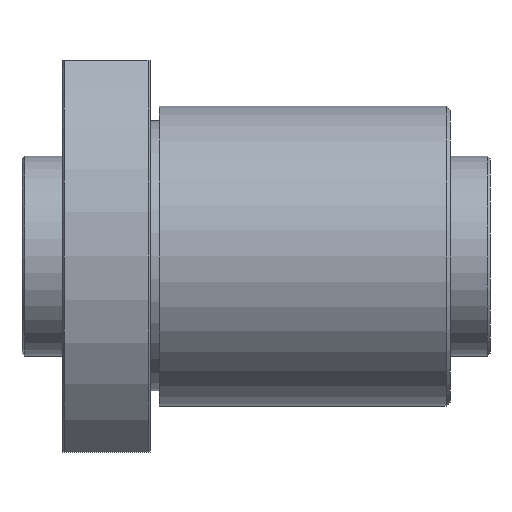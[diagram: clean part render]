
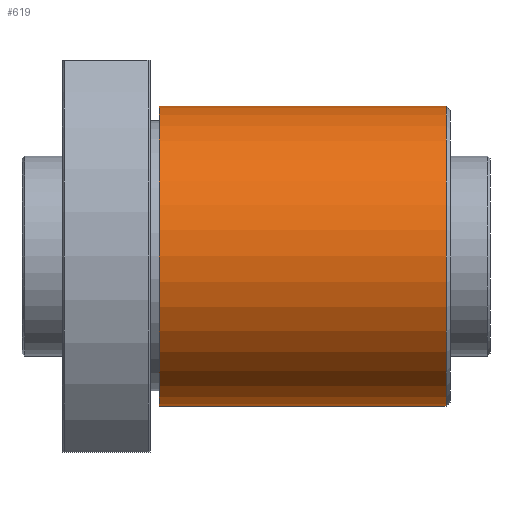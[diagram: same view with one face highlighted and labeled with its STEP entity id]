
A CAD part, front view. The second image highlights one B-rep face of the part: STEP entity #619.
In plain terms, the highlighted cylindrical face has radius 37.5 mm (diameter 75 mm), a full revolution.
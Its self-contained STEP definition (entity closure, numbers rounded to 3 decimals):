
#61=CYLINDRICAL_SURFACE('',#724,37.5);
#152=ORIENTED_EDGE('',*,*,#270,.T.);
#153=ORIENTED_EDGE('',*,*,#269,.F.);
#269=EDGE_CURVE('',#328,#328,#377,.T.);
#270=EDGE_CURVE('',#329,#329,#378,.T.);
#328=VERTEX_POINT('',#1136);
#329=VERTEX_POINT('',#1139);
#377=CIRCLE('',#723,37.5);
#378=CIRCLE('',#725,37.5);
#435=EDGE_LOOP('',(#152));
#436=EDGE_LOOP('',(#153));
#531=FACE_BOUND('',#435,.T.);
#532=FACE_BOUND('',#436,.T.);
#619=ADVANCED_FACE('',(#531,#532),#61,.T.);
#723=AXIS2_PLACEMENT_3D('',#1135,#878,#879);
#724=AXIS2_PLACEMENT_3D('',#1137,#880,#881);
#725=AXIS2_PLACEMENT_3D('',#1138,#882,#883);
#878=DIRECTION('',(1.,0.,0.));
#879=DIRECTION('',(0.,0.,-1.));
#880=DIRECTION('',(1.,0.,0.));
#881=DIRECTION('',(0.,0.,-1.));
#882=DIRECTION('',(1.,0.,0.));
#883=DIRECTION('',(0.,0.,-1.));
#1135=CARTESIAN_POINT('',(96.,0.,0.));
#1136=CARTESIAN_POINT('',(96.,0.,-37.5));
#1137=CARTESIAN_POINT('',(50.,0.,0.));
#1138=CARTESIAN_POINT('',(24.3,0.,0.));
#1139=CARTESIAN_POINT('',(24.3,0.,-37.5));
